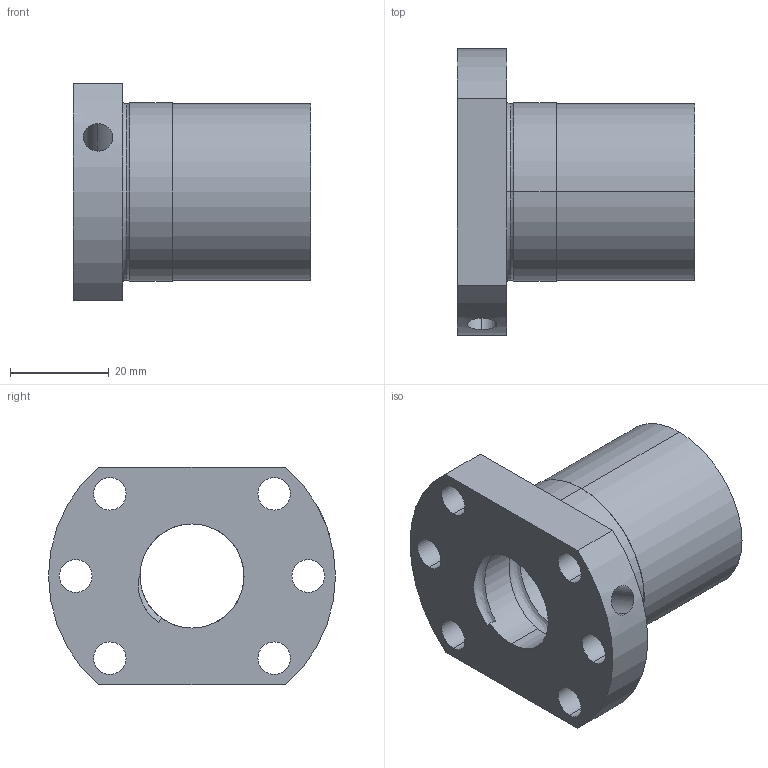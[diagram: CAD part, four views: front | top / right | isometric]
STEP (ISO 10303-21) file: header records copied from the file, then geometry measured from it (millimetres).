
FILE_DESCRIPTION (( 'STEP AP214' ), '1' );
FILE_NAME ('LLE2010-F.STEP', '2020-12-17T06:31:18', ( 'user' ), ( 'datathink' ), 'SwSTEP 2.0', 'SolidWorks 2013', '' );
FILE_SCHEMA (( 'AUTOMOTIVE_DESIGN' ));
Length unit declared in the file: millimetre
Products named in the file (1): LLE2010-F
Bounding box: 48 x 58 x 44 mm (x, y, z)
Volume: 41061.1 mm3; surface area: 14559.2 mm2
Topology: 1 solids, 1 shells, 45 faces, 122 edges, 80 vertices
Faces by surface type: cylinder 32, plane 7, torus 4, bspline 2
Entity records: 2943 total; most frequent: CARTESIAN_POINT 1791, ORIENTED_EDGE 244, DIRECTION 226, EDGE_CURVE 122, AXIS2_PLACEMENT_3D 94, VERTEX_POINT 80, EDGE_LOOP 62, CIRCLE 50
